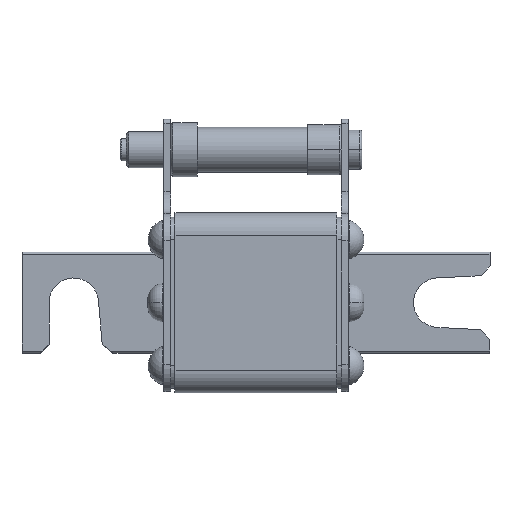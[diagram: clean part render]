
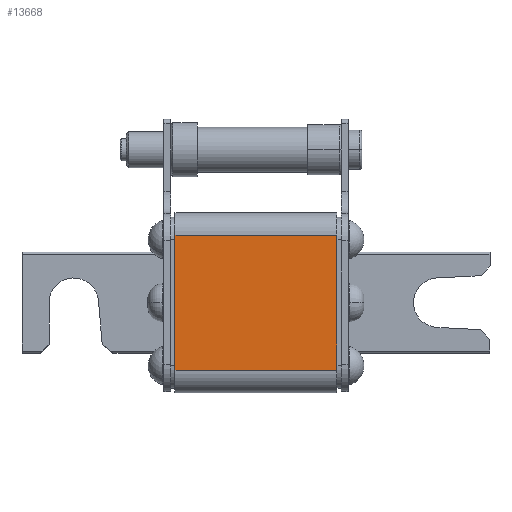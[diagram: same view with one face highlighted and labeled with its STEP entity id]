
A CAD part, left-side view. The second image highlights one B-rep face of the part: STEP entity #13668.
In plain terms, the highlighted planar face has unit normal (-1, 0, 0).
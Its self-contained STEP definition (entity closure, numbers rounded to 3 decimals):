
#540 = DIRECTION ( 'NONE',  ( 0., -1., 0. ) ) ;
#2845 = DIRECTION ( 'NONE',  ( 1., 0., 0. ) ) ;
#3269 = CARTESIAN_POINT ( 'NONE',  ( -20., -18., -15. ) ) ;
#3450 = LINE ( 'NONE', #6952, #14630 ) ;
#3705 = DIRECTION ( 'NONE',  ( 0., 0., 1. ) ) ;
#4111 = DIRECTION ( 'NONE',  ( 0., -1., 0. ) ) ;
#4203 = VERTEX_POINT ( 'NONE', #7706 ) ;
#4314 = DIRECTION ( 'NONE',  ( 0., 0., 1. ) ) ;
#4488 = VECTOR ( 'NONE', #3705, 1000. ) ;
#5495 = CARTESIAN_POINT ( 'NONE',  ( -20., 18., -15. ) ) ;
#5521 = FACE_OUTER_BOUND ( 'NONE', #10279, .T. ) ;
#5600 = VECTOR ( 'NONE', #540, 1000. ) ;
#5845 = CARTESIAN_POINT ( 'NONE',  ( -20., -18., 15. ) ) ;
#6515 = VERTEX_POINT ( 'NONE', #5845 ) ;
#6870 = LINE ( 'NONE', #10997, #4488 ) ;
#6952 = CARTESIAN_POINT ( 'NONE',  ( -20., -18., -15. ) ) ;
#7612 = AXIS2_PLACEMENT_3D ( 'NONE', #5495, #2845, #14260 ) ;
#7706 = CARTESIAN_POINT ( 'NONE',  ( -20., 18., 15. ) ) ;
#8067 = CARTESIAN_POINT ( 'NONE',  ( -20., 18., 15. ) ) ;
#8743 = ORIENTED_EDGE ( 'NONE', *, *, #12635, .T. ) ;
#9099 = LINE ( 'NONE', #15610, #5600 ) ;
#9458 = EDGE_CURVE ( 'NONE', #4203, #6515, #10897, .T. ) ;
#10279 = EDGE_LOOP ( 'NONE', ( #12112, #14913, #11629, #8743 ) ) ;
#10450 = PLANE ( 'NONE',  #7612 ) ;
#10897 = LINE ( 'NONE', #8067, #15842 ) ;
#10997 = CARTESIAN_POINT ( 'NONE',  ( -20., 18., -15. ) ) ;
#11585 = EDGE_CURVE ( 'NONE', #12279, #6515, #3450, .T. ) ;
#11629 = ORIENTED_EDGE ( 'NONE', *, *, #13905, .F. ) ;
#12112 = ORIENTED_EDGE ( 'NONE', *, *, #11585, .T. ) ;
#12279 = VERTEX_POINT ( 'NONE', #3269 ) ;
#12635 = EDGE_CURVE ( 'NONE', #15023, #12279, #9099, .T. ) ;
#13668 = ADVANCED_FACE ( 'NONE', ( #5521 ), #10450, .F. ) ;
#13905 = EDGE_CURVE ( 'NONE', #15023, #4203, #6870, .T. ) ;
#14260 = DIRECTION ( 'NONE',  ( 0., 0., -1. ) ) ;
#14630 = VECTOR ( 'NONE', #4314, 1000. ) ;
#14913 = ORIENTED_EDGE ( 'NONE', *, *, #9458, .F. ) ;
#15023 = VERTEX_POINT ( 'NONE', #15542 ) ;
#15542 = CARTESIAN_POINT ( 'NONE',  ( -20., 18., -15. ) ) ;
#15610 = CARTESIAN_POINT ( 'NONE',  ( -20., 18., -15. ) ) ;
#15842 = VECTOR ( 'NONE', #4111, 1000. ) ;
